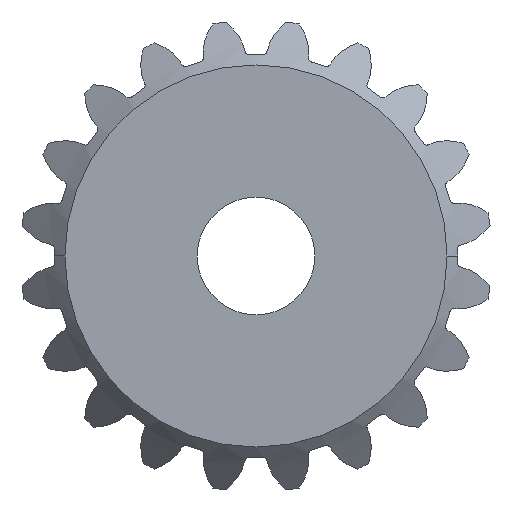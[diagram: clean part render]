
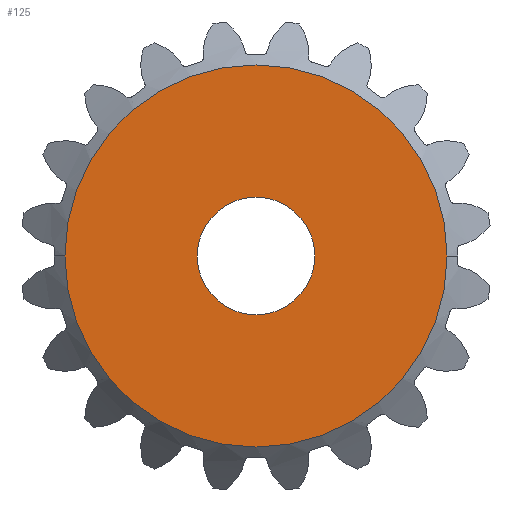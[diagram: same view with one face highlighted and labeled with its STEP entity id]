
A CAD part, left-side view. The second image highlights one B-rep face of the part: STEP entity #125.
In plain terms, the highlighted planar face has unit normal (-1, 0, 0).
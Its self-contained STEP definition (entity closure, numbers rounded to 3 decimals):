
#37=CARTESIAN_POINT('',(15.5,13.,-0.5));
#38=VERTEX_POINT('',#37);
#54=CARTESIAN_POINT('',(15.5,-13.,-0.5));
#55=VERTEX_POINT('',#54);
#62=CARTESIAN_POINT('',(15.5,0.,-0.5));
#63=DIRECTION('',(0.,-1.,0.));
#64=DIRECTION('',(1.,0.,0.));
#65=AXIS2_PLACEMENT_3D('',#62,#64,#63);
#66=CIRCLE('',#65,13.);
#67=EDGE_CURVE('',#55,#38,#66,.T.);
#78=CARTESIAN_POINT('',(15.5,0.,-0.5));
#79=DIRECTION('',(0.,1.,0.));
#80=DIRECTION('',(1.,0.,0.));
#81=AXIS2_PLACEMENT_3D('',#78,#80,#79);
#82=CIRCLE('',#81,13.);
#83=EDGE_CURVE('',#38,#55,#82,.T.);
#96=CARTESIAN_POINT('',(15.5,0.,-0.5));
#97=DIRECTION('',(0.,-1.,0.));
#98=DIRECTION('',(-1.,0.,0.));
#99=AXIS2_PLACEMENT_3D('',#96,#98,#97);
#100=PLANE('',#99);
#101=ORIENTED_EDGE('',*,*,#67,.F.);
#102=ORIENTED_EDGE('',*,*,#83,.F.);
#103=EDGE_LOOP('',(#101,#102));
#104=FACE_OUTER_BOUND('',#103,.T.);
#105=CARTESIAN_POINT('',(15.5,4.,-0.5));
#106=VERTEX_POINT('',#105);
#107=CARTESIAN_POINT('',(15.5,-4.,-0.5));
#108=VERTEX_POINT('',#107);
#109=CARTESIAN_POINT('',(15.5,0.,-0.5));
#110=DIRECTION('',(0.,1.,0.));
#111=DIRECTION('',(1.,0.,0.));
#112=AXIS2_PLACEMENT_3D('',#109,#111,#110);
#113=CIRCLE('',#112,4.);
#114=EDGE_CURVE('',#106,#108,#113,.T.);
#115=ORIENTED_EDGE('E5',*,*,#114,.T.);
#116=CARTESIAN_POINT('',(15.5,0.,-0.5));
#117=DIRECTION('',(0.,-1.,0.));
#118=DIRECTION('',(1.,0.,0.));
#119=AXIS2_PLACEMENT_3D('',#116,#118,#117);
#120=CIRCLE('',#119,4.);
#121=EDGE_CURVE('',#108,#106,#120,.T.);
#122=ORIENTED_EDGE('E378',*,*,#121,.T.);
#123=EDGE_LOOP('',(#115,#122));
#124=FACE_BOUND('',#123,.T.);
#125=ADVANCED_FACE('F3',(#104,#124),#100,.T.);
